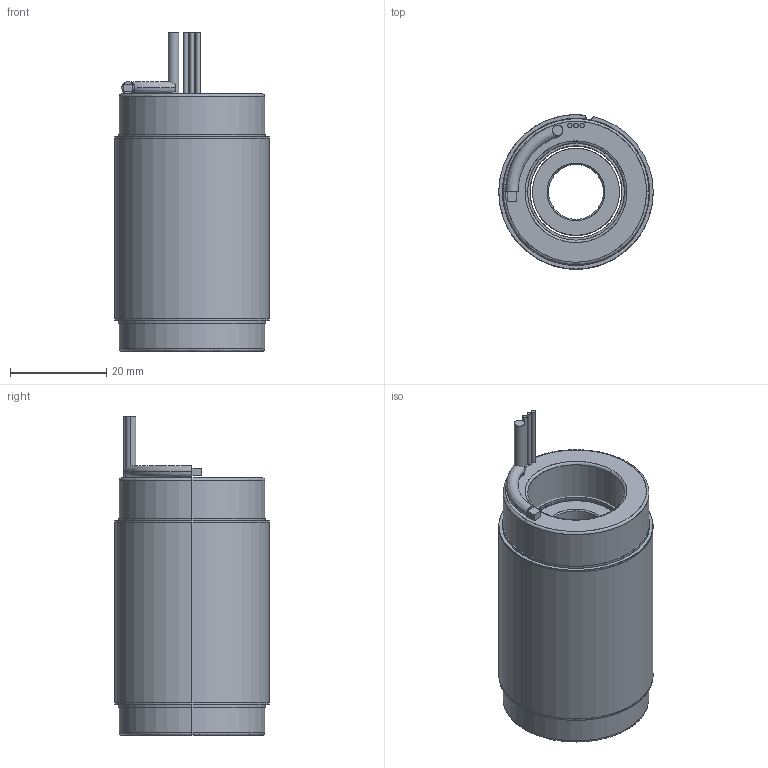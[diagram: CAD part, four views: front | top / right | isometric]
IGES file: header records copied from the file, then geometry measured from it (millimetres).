
Start section: SolidWorks IGES file using analytic representation for surfaces
Global section: file name: \\fs01.aveox.local\user documents\eng\My Documents\STANDARD STATOR ROTOR SETS\NEW DIRECT DRIVE MOTOR\1.26 OD 9s8p\6100335-04.IGS; native system: SolidWorks 2016; preprocessor: SolidWorks 2016; author: eng; date: 191023.125928; units: millimetre
Bounding box: 32 x 32 x 66.04 mm (x, y, z)
Surface area: 24537.9 mm2 (no closed solid volume)
Topology: 0 solids, 0 shells, 90 faces, 1744 edges, 1744 vertices
Faces by surface type: revolution 48, bspline 42
